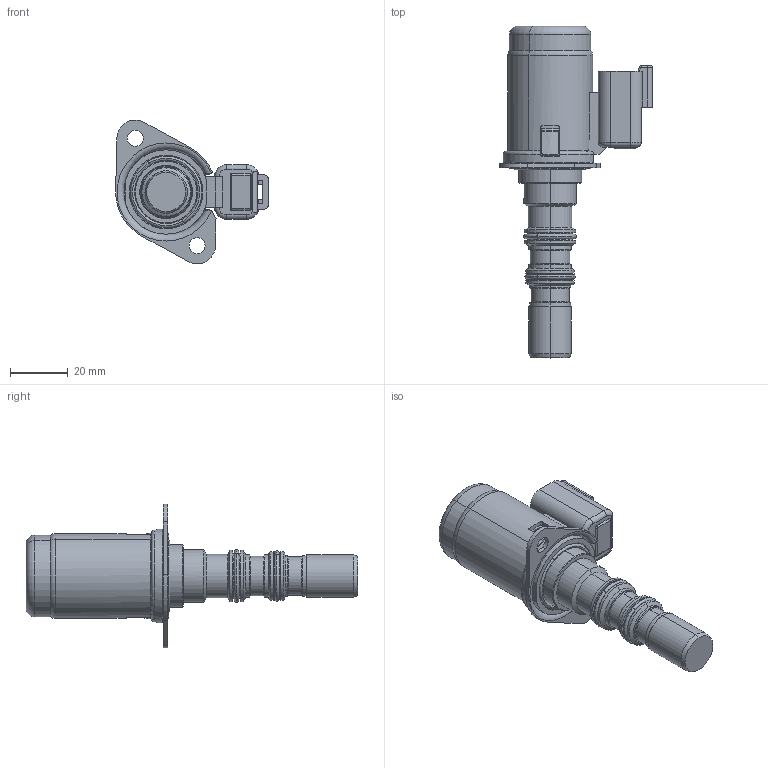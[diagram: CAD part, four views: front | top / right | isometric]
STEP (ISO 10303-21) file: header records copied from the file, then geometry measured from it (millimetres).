
FILE_DESCRIPTION((''),'2;1');
FILE_NAME('PRT0009','2009-03-20T',('jcs'),(''),'PRO/ENGINEER BY PARAMETRIC TECHNOLOGY CORPORATION, 2008010','PRO/ENGINEER BY PARAMETRIC TECHNOLOGY CORPORATION, 2008010','');
FILE_SCHEMA(('CONFIG_CONTROL_DESIGN'));
Length unit declared in the file: inch
Products named in the file (1): PRT0009
Bounding box: 53.01 x 115.24 x 49.94 mm (x, y, z)
Volume: 52144.5 mm3; surface area: 16159.3 mm2
Topology: 2 solids, 2 shells, 420 faces, 1185 edges, 758 vertices
Faces by surface type: plane 154, cylinder 132, torus 72, cone 44, bspline 10, sphere 8
Entity records: 14344 total; most frequent: CARTESIAN_POINT 3349, ORIENTED_EDGE 2354, DIRECTION 2336, EDGE_CURVE 1177, AXIS2_PLACEMENT_3D 905, VERTEX_POINT 758, VECTOR 526, LINE 526
